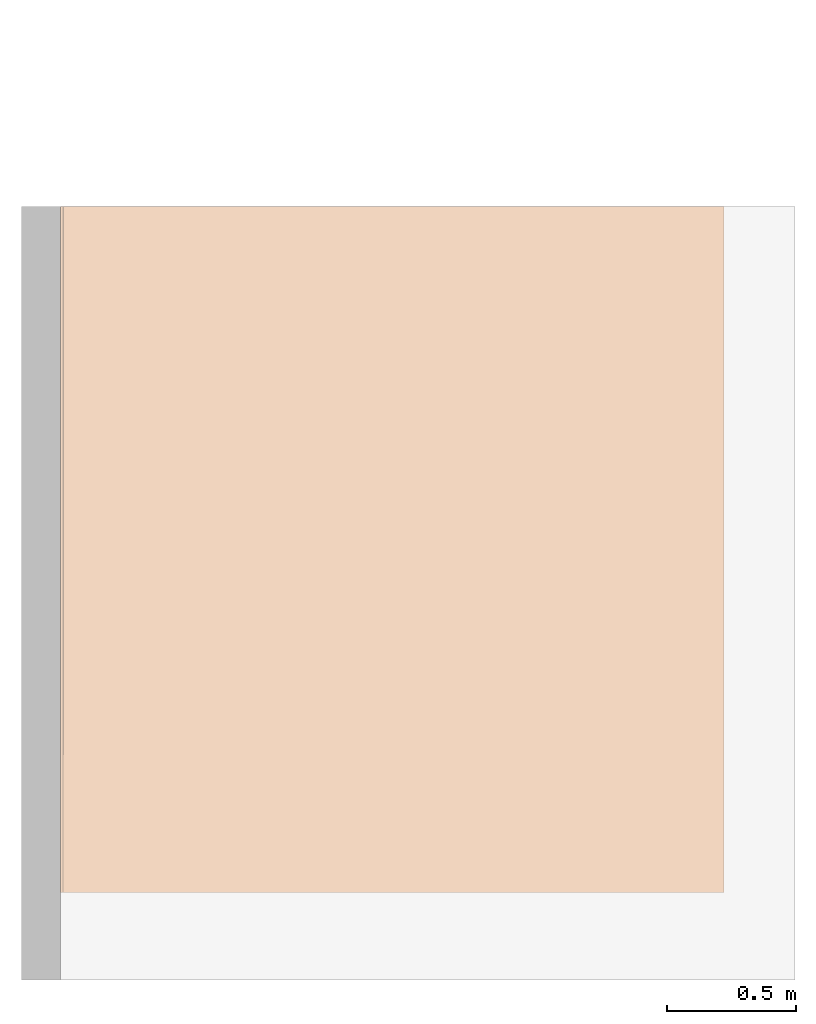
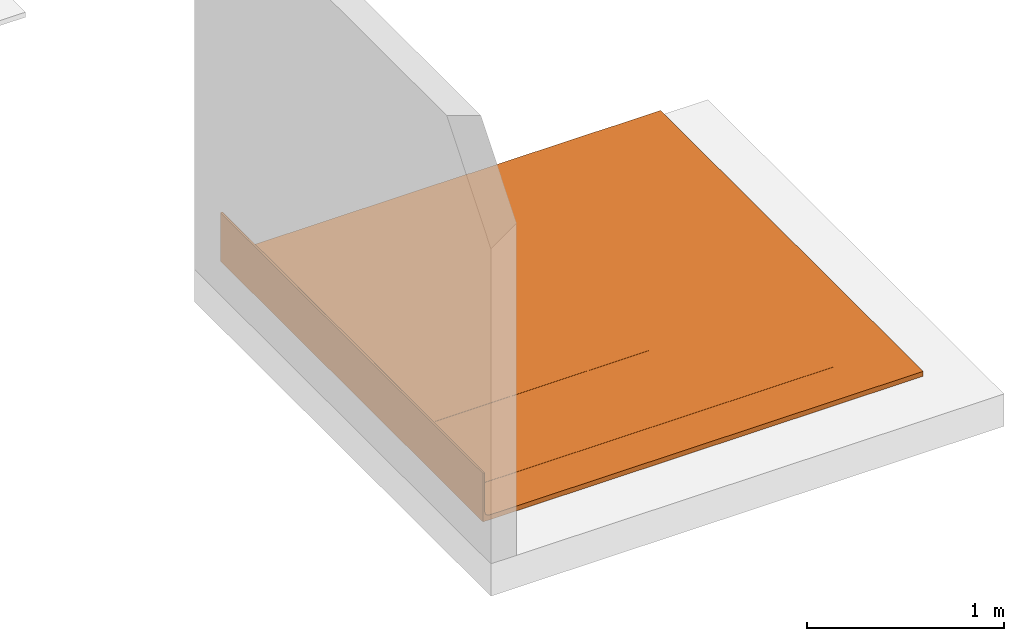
# One storey, part 2 of 2: 1 proxy.
"""IFC2X3 building model written with IfcOpenShell, lengths in metres."""

from ifc_helpers import new_model, entity, si_unit, converted_unit, derived_unit, direction, frame, frame_2d, origin, place, context, subcontext, project, spatial, polyline, circle_curve, parameter, trimmed, segment, composite_curve, outline, extrude, source, transform, mapped, material, material_list, type_object, type_shapes, element, save


model = new_model("IFC2X3")

# Units and contexts
model_context = context("Model", 3, precision=1e-05, world=origin(), true_north=direction((6.123031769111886e-17, 1.0)))
body_context = subcontext(model_context, "Body", "Model", "MODEL_VIEW")
ifc_project = project(units=[si_unit("LENGTHUNIT", "METRE"), si_unit("AREAUNIT", "SQUARE_METRE"), si_unit("VOLUMEUNIT", "CUBIC_METRE"), converted_unit("PLANEANGLEUNIT", "DEGREE", entity("IfcRatioMeasure", 0.017453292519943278), si_unit("PLANEANGLEUNIT", "RADIAN"), dimensions=[0, 0, 0, 0, 0, 0, 0]), si_unit("MASSUNIT", "GRAM", prefix="KILO"), derived_unit("MASSDENSITYUNIT", [(si_unit("MASSUNIT", "GRAM", prefix="KILO"), 1), (si_unit("LENGTHUNIT", "METRE"), -3)]), derived_unit("IONCONCENTRATIONUNIT", [(si_unit("MASSUNIT", "GRAM", prefix="KILO"), 1), (si_unit("LENGTHUNIT", "METRE"), -3)]), derived_unit("MOMENTOFINERTIAUNIT", [(si_unit("LENGTHUNIT", "METRE"), 4)]), si_unit("TIMEUNIT", "SECOND"), si_unit("FREQUENCYUNIT", "HERTZ"), si_unit("THERMODYNAMICTEMPERATUREUNIT", "DEGREE_CELSIUS"), derived_unit("THERMALTRANSMITTANCEUNIT", [(si_unit("MASSUNIT", "GRAM", prefix="KILO"), 1), (si_unit("THERMODYNAMICTEMPERATUREUNIT", "KELVIN"), -1), (si_unit("TIMEUNIT", "SECOND"), -3)]), derived_unit("THERMALCONDUCTANCEUNIT", [(si_unit("MASSUNIT", "GRAM", prefix="KILO"), 1), (si_unit("THERMODYNAMICTEMPERATUREUNIT", "KELVIN"), -1), (si_unit("TIMEUNIT", "SECOND"), -3), (si_unit("LENGTHUNIT", "METRE"), 1)]), derived_unit("VOLUMETRICFLOWRATEUNIT", [(si_unit("LENGTHUNIT", "METRE"), 3), (si_unit("TIMEUNIT", "SECOND"), -1)]), derived_unit("MASSFLOWRATEUNIT", [(si_unit("MASSUNIT", "GRAM", prefix="KILO"), 1), (si_unit("TIMEUNIT", "SECOND"), -1)]), derived_unit("ROTATIONALFREQUENCYUNIT", [(si_unit("TIMEUNIT", "SECOND"), -1)]), si_unit("ELECTRICCURRENTUNIT", "AMPERE"), si_unit("ELECTRICVOLTAGEUNIT", "VOLT"), si_unit("POWERUNIT", "WATT"), si_unit("FORCEUNIT", "NEWTON", prefix="KILO"), si_unit("ILLUMINANCEUNIT", "LUX"), si_unit("LUMINOUSFLUXUNIT", "LUMEN"), si_unit("LUMINOUSINTENSITYUNIT", "CANDELA"), derived_unit("USERDEFINED", [(si_unit("MASSUNIT", "GRAM", prefix="KILO"), -1), (si_unit("LENGTHUNIT", "METRE"), -2), (si_unit("TIMEUNIT", "SECOND"), 3), (si_unit("LUMINOUSFLUXUNIT", "LUMEN"), 1)]), derived_unit("USERDEFINED", [(si_unit("MASSUNIT", "GRAM", prefix="KILO"), 1), (si_unit("TIMEUNIT", "SECOND"), -3), (si_unit("LENGTHUNIT", "METRE"), 3), (si_unit("ELECTRICCURRENTUNIT", "AMPERE"), -2)]), derived_unit("SOUNDPOWERUNIT", [(si_unit("MASSUNIT", "GRAM", prefix="KILO"), 1), (si_unit("TIMEUNIT", "SECOND"), -3), (si_unit("LENGTHUNIT", "METRE"), 2)]), derived_unit("SOUNDPRESSUREUNIT", [(si_unit("MASSUNIT", "GRAM", prefix="KILO"), 1), (si_unit("LENGTHUNIT", "METRE"), -1), (si_unit("TIMEUNIT", "SECOND"), -2)]), derived_unit("LINEARVELOCITYUNIT", [(si_unit("LENGTHUNIT", "METRE"), 1), (si_unit("TIMEUNIT", "SECOND"), -1)]), si_unit("PRESSUREUNIT", "PASCAL"), derived_unit("USERDEFINED", [(si_unit("MASSUNIT", "GRAM", prefix="KILO"), 1), (si_unit("LENGTHUNIT", "METRE"), -2), (si_unit("TIMEUNIT", "SECOND"), -2)]), derived_unit("LINEARFORCEUNIT", [(si_unit("MASSUNIT", "GRAM", prefix="KILO"), 1), (si_unit("TIMEUNIT", "SECOND"), -2)]), derived_unit("PLANARFORCEUNIT", [(si_unit("MASSUNIT", "GRAM", prefix="KILO"), 1), (si_unit("LENGTHUNIT", "METRE"), -1), (si_unit("TIMEUNIT", "SECOND"), -2)]), derived_unit("SPECIFICHEATCAPACITYUNIT", [(si_unit("THERMODYNAMICTEMPERATUREUNIT", "KELVIN"), -1), (si_unit("LENGTHUNIT", "METRE"), 2), (si_unit("TIMEUNIT", "SECOND"), -2)]), derived_unit("HEATINGVALUEUNIT", [(si_unit("LENGTHUNIT", "METRE"), 2), (si_unit("TIMEUNIT", "SECOND"), -2)]), derived_unit("VAPORPERMEABILITYUNIT", [(si_unit("LENGTHUNIT", "METRE"), -1), (si_unit("TIMEUNIT", "SECOND"), 1)]), derived_unit("DYNAMICVISCOSITYUNIT", [(si_unit("MASSUNIT", "GRAM", prefix="KILO"), 1), (si_unit("TIMEUNIT", "SECOND"), -1), (si_unit("LENGTHUNIT", "METRE"), -1)]), derived_unit("THERMALEXPANSIONCOEFFICIENTUNIT", [(si_unit("THERMODYNAMICTEMPERATUREUNIT", "KELVIN"), -1)]), derived_unit("MODULUSOFELASTICITYUNIT", [(si_unit("MASSUNIT", "GRAM", prefix="KILO"), 1), (si_unit("LENGTHUNIT", "METRE"), -1), (si_unit("TIMEUNIT", "SECOND"), -2)]), derived_unit("ISOTHERMALMOISTURECAPACITYUNIT", [(si_unit("LENGTHUNIT", "METRE"), 3), (si_unit("MASSUNIT", "GRAM", prefix="KILO"), -1)]), derived_unit("MOISTUREDIFFUSIVITYUNIT", [(si_unit("TIMEUNIT", "SECOND"), -1), (si_unit("LENGTHUNIT", "METRE"), 2)])], contexts=[model_context])

# Site, building, storey
site_placement = place(None, origin())
site = spatial("IfcSite", under=ifc_project, at=site_placement, Name="Default", CompositionType="ELEMENT")
building_placement = place(site_placement, origin())
building = spatial("IfcBuilding", under=site, at=building_placement, CompositionType="ELEMENT")
storey_placement = place(building_placement, frame((0.0, 0.0, -0.0025237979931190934)))
storey = spatial("IfcBuildingStorey", under=building, at=storey_placement, Name="ARQ Térreo", CompositionType="ELEMENT", Elevation=-0.0025237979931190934)

# Proxy
ifc_material_1 = material(Name="#Vedalage Ultra 10")
ifc_material_2 = material(Name="#mantex")
ifc_material_3 = material(Name="#argamassa")
ifc_material_list = material_list([ifc_material_1, ifc_material_2, ifc_material_3])
building_element_proxy_type = type_object("IfcBuildingElementProxyType", Name="IMPER:IMPER", PredefinedType="NOTDEFINED", material=ifc_material_list)
shared_shape = source(origin(), body_context, "Body", "SweptSolid", [
    extrude(outline(composite_curve([segment(trimmed(circle_curve(frame_2d((-0.3402425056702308, 0.045964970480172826), x_axis=(1.0, 0.0)), 0.02819999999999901), [parameter(92.44481457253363)], [parameter(178.37721505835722)], True, "PARAMETER"), True, "CONTINUOUS"), segment(polyline([(-0.3684311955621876, 0.046763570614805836), (-0.3684311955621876, -0.1940350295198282)]), True, "CONTINUOUS"), segment(polyline([(-0.3684311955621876, -0.1940350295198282), (-0.3674311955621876, -0.1940350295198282)]), True, "CONTINUOUS"), segment(polyline([(-0.3674311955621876, -0.1940350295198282), (-0.3674311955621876, 0.04674928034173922)]), True, "CONTINUOUS"), segment(trimmed(circle_curve(frame_2d((-0.3402425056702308, 0.045964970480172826), x_axis=(1.0, 0.0)), 0.02719999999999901), [parameter(92.48935731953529)], [parameter(178.34765167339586)], True, "PARAMETER"), False, "CONTINUOUS"), segment(polyline([(-0.3414239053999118, 0.07313930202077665), (1.077297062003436, 0.07313930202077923)]), True, "CONTINUOUS"), segment(polyline([(1.077297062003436, 0.07313930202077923), (1.077297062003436, 0.07413930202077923)]), True, "CONTINUOUS"), segment(polyline([(1.077297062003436, 0.07413930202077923), (-0.3414454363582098, 0.07413930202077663)]), True, "CONTINUOUS")], self_intersect=False)), frame((0.02827209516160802, -1.6636634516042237, 0.10344117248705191), z_axis=(0.0, 1.0, 0.0), x_axis=(1.0, 0.0, 0.0)), (0.0, 0.0, 1.0), 1.8095334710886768),
    extrude(outline(composite_curve([segment(trimmed(circle_curve(frame_2d((-0.014070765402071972, 0.009186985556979), x_axis=(1.0, 0.0)), 0.028999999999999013), [parameter(92.41085211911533)], [parameter(178.399756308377)], True, "PARAMETER"), True, "CONTINUOUS"), segment(polyline([(-0.043059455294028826, 0.009996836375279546), (-0.043059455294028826, -0.0855138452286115)]), True, "CONTINUOUS"), segment(polyline([(-0.043059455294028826, -0.0855138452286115), (-0.0422594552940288, -0.0855138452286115)]), True, "CONTINUOUS"), segment(polyline([(-0.0422594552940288, -0.0855138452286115), (-0.0422594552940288, 0.00998558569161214)]), True, "CONTINUOUS"), segment(trimmed(circle_curve(frame_2d((-0.014070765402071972, 0.009186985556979), x_axis=(1.0, 0.0)), 0.02819999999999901), [parameter(92.44481457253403)], [parameter(178.37721505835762)], True, "PARAMETER"), False, "CONTINUOUS"), segment(polyline([(-0.015273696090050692, 0.03736131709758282), (0.10060108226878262, 0.03736131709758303)]), True, "CONTINUOUS"), segment(polyline([(0.10060108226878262, 0.03736131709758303), (0.10060108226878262, 0.038161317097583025)]), True, "CONTINUOUS"), segment(polyline([(0.10060108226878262, 0.038161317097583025), (-0.015290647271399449, 0.03816131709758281)]), True, "CONTINUOUS")], self_intersect=False)), frame((-0.2978996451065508, -1.981661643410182, 0.06666318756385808), z_axis=(0.0, 1.0, 0.0), x_axis=(1.0, 0.0, 0.0)), (0.0, 0.0, 1.0), 2.1275316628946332),
    extrude(outline(composite_curve([segment(polyline([(-0.7039515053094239, 0.0728571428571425), (1.8298787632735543, 0.0728571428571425)]), True, "CONTINUOUS"), segment(polyline([(1.8298787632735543, 0.0728571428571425), (1.8298787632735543, 0.10285714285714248)]), True, "CONTINUOUS"), segment(polyline([(1.8298787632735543, 0.10285714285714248), (-0.7439515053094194, 0.10285714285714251)]), True, "CONTINUOUS"), segment(polyline([(-0.7439515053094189, 0.1028571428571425), (-0.7439515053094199, -0.19714285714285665)]), True, "CONTINUOUS"), segment(polyline([(-0.7439515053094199, -0.19714285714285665), (-0.7339515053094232, -0.19714285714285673)]), True, "CONTINUOUS"), segment(polyline([(-0.7339515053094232, -0.19714285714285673), (-0.733951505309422, 0.042857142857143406)]), True, "CONTINUOUS"), segment(trimmed(circle_curve(frame_2d((-0.7039515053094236, 0.04285714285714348), x_axis=(1.0, 0.0)), 0.029999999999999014), [parameter(90.0000000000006)], [parameter(180.0000000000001)], True, "PARAMETER"), False, "CONTINUOUS")], self_intersect=False)), frame((0.39198109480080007, -2.5141299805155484, 0.10033334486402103), z_axis=(0.0, 1.0, 0.0), x_axis=(1.0, 0.0, 0.0)), (0.0, 0.0, 1.0), 2.660000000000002),
    extrude(outline(composite_curve([segment(polyline([(-0.5530448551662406, -0.04596503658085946), (-0.5530448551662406, 0.1948448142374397)]), True, "CONTINUOUS"), segment(polyline([(-0.5530448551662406, 0.1948448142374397), (-0.5540561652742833, 0.1948448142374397)]), True, "CONTINUOUS"), segment(polyline([(-0.5540561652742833, 0.1948448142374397), (-0.5540561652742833, -0.04515518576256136)]), True, "CONTINUOUS"), segment(trimmed(circle_curve(frame_2d((-0.5240561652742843, -0.04515518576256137), x_axis=(1.0, 0.0)), 0.029999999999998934), [parameter(179.99999999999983)], [parameter(270.00000000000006)], True, "PARAMETER"), True, "CONTINUOUS"), segment(polyline([(-0.5240561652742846, -0.07515518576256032), (1.6317671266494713, -0.07515518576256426)]), True, "CONTINUOUS"), segment(polyline([(1.6317671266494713, -0.07515518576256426), (1.6317671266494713, -0.07412951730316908)]), True, "CONTINUOUS"), segment(polyline([(1.6317671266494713, -0.07412951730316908), (-0.5252760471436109, -0.07412951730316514)]), True, "CONTINUOUS"), segment(trimmed(circle_curve(frame_2d((-0.5240561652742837, -0.04515518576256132), x_axis=(1.0, 0.0)), 0.028999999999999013), [parameter(181.60024369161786)], [parameter(267.5891478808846)], True, "PARAMETER"), False, "CONTINUOUS")], self_intersect=False)), frame((0.21208575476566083, -2.2541299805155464, 0.1026313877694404), z_axis=(0.0, -1.0, 0.0), x_axis=(1.0, 0.0, 0.0)), (0.0, 0.0, -1.0), 2.3999999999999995),
])
type_shapes(building_element_proxy_type, [shared_shape])
proxy_placement = place(storey_placement, frame((0.0, 0.0, 0.0025237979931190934)))
element("IfcBuildingElementProxy", 1, at=proxy_placement, inside=storey, type_object=building_element_proxy_type, material=ifc_material_list, Name="IMPER:IMPER:IMPER : IMPER:IMPER", ObjectType="IMPER:IMPER:IMPER : IMPER:IMPER", context=body_context, shape_type="MappedRepresentation", body=[
    mapped(shared_shape, transform((0.0, 0.0, 0.0), scale=1.0)),
])

save(model, "model.ifc")
